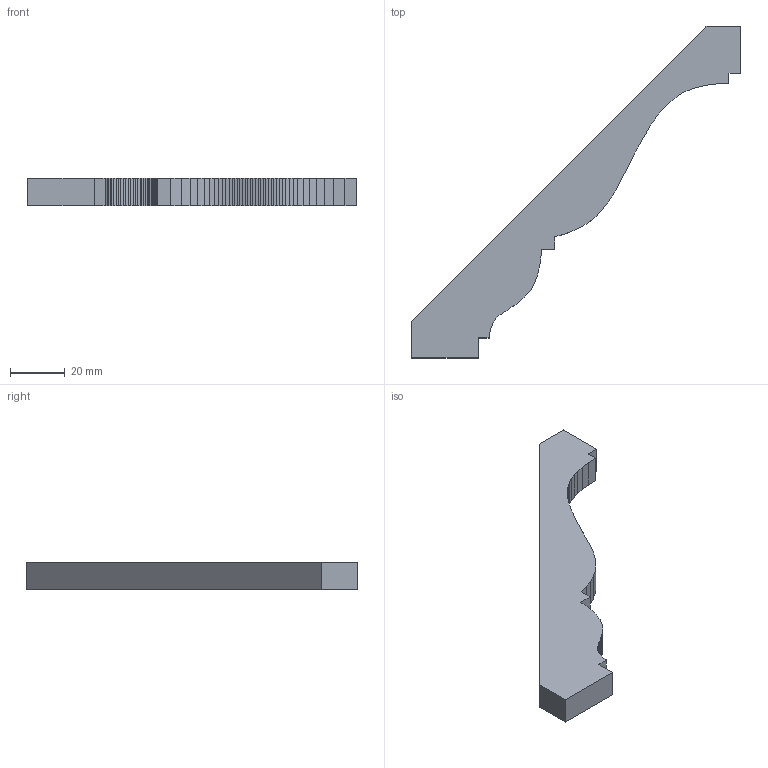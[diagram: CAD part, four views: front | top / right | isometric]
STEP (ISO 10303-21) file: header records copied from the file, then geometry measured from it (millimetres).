
FILE_DESCRIPTION (( 'STEP AP203' ), '1' );
FILE_NAME ('AB503.STEP', '2024-02-22T13:04:07', ( '' ), ( '' ), 'SwSTEP 2.0', 'SolidWorks 2020', '' );
FILE_SCHEMA (( 'CONFIG_CONTROL_DESIGN' ));
Length unit declared in the file: millimetre
Products named in the file (1): AB503
Bounding box: 120.33 x 121.42 x 10 mm (x, y, z)
Volume: 29278.7 mm3; surface area: 9645.3 mm2
Topology: 1 solids, 1 shells, 85 faces, 249 edges, 166 vertices
Faces by surface type: plane 85
Entity records: 2840 total; most frequent: CARTESIAN_POINT 501, ORIENTED_EDGE 498, DIRECTION 421, VECTOR 249, EDGE_CURVE 249, LINE 249, VERTEX_POINT 166, AXIS2_PLACEMENT_3D 86
